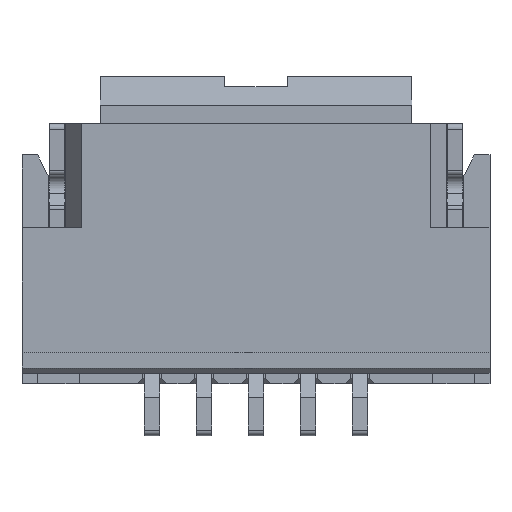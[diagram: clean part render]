
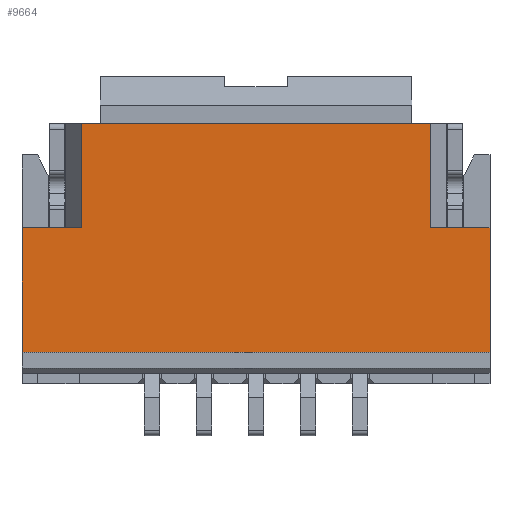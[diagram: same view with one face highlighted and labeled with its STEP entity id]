
A CAD part, front view. The second image highlights one B-rep face of the part: STEP entity #9664.
In plain terms, the highlighted planar face has unit normal (0, -1, 0).
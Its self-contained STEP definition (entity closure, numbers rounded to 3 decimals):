
#1=DIRECTION('',(0.,0.,1.));
#2=VECTOR('',#1,1.);
#3=CARTESIAN_POINT('',(1.18,0.,0.25));
#4=LINE('',#3,#2);
#5=DIRECTION('',(-1.,0.,0.));
#6=VECTOR('',#5,0.57);
#7=CARTESIAN_POINT('',(1.75,0.,0.25));
#8=LINE('',#7,#6);
#9=DIRECTION('',(0.,0.,1.));
#10=VECTOR('',#9,1.2);
#11=CARTESIAN_POINT('',(1.75,0.,-0.95));
#12=LINE('',#11,#10);
#13=DIRECTION('',(0.,0.,1.));
#14=VECTOR('',#13,1.2);
#15=CARTESIAN_POINT('',(-2.75,0.,-0.95));
#16=LINE('',#15,#14);
#17=DIRECTION('',(1.,0.,0.));
#18=VECTOR('',#17,0.57);
#19=CARTESIAN_POINT('',(-2.75,0.,0.25));
#20=LINE('',#19,#18);
#21=DIRECTION('',(0.,0.,1.));
#22=VECTOR('',#21,1.);
#23=CARTESIAN_POINT('',(-2.18,0.,0.25));
#24=LINE('',#23,#22);
#53=DIRECTION('',(-1.,0.,0.));
#54=VECTOR('',#53,3.36);
#55=CARTESIAN_POINT('',(1.18,0.,1.25));
#56=LINE('',#55,#54);
#783=DIRECTION('',(1.,0.,0.));
#784=VECTOR('',#783,4.5);
#785=CARTESIAN_POINT('',(-2.75,0.,-0.95));
#786=LINE('',#785,#784);
#7351=CARTESIAN_POINT('',(-2.75,0.,-0.95));
#7352=CARTESIAN_POINT('',(-2.75,0.,0.25));
#7353=VERTEX_POINT('',#7351);
#7354=VERTEX_POINT('',#7352);
#7355=CARTESIAN_POINT('',(-2.18,0.,0.25));
#7356=VERTEX_POINT('',#7355);
#7357=CARTESIAN_POINT('',(-2.18,0.,1.25));
#7358=VERTEX_POINT('',#7357);
#8485=CARTESIAN_POINT('',(1.75,0.,-0.95));
#8486=CARTESIAN_POINT('',(1.75,0.,0.25));
#8487=VERTEX_POINT('',#8485);
#8488=VERTEX_POINT('',#8486);
#8489=CARTESIAN_POINT('',(1.18,0.,0.25));
#8490=VERTEX_POINT('',#8489);
#8491=CARTESIAN_POINT('',(1.18,0.,1.25));
#8492=VERTEX_POINT('',#8491);
#9641=CARTESIAN_POINT('',(0.,0.,0.15));
#9642=DIRECTION('',(0.,1.,0.));
#9643=DIRECTION('',(1.,0.,0.));
#9644=AXIS2_PLACEMENT_3D('',#9641,#9642,#9643);
#9645=PLANE('',#9644);
#9647=ORIENTED_EDGE('',*,*,#9646,.F.);
#9649=ORIENTED_EDGE('',*,*,#9648,.F.);
#9651=ORIENTED_EDGE('',*,*,#9650,.F.);
#9653=ORIENTED_EDGE('',*,*,#9652,.F.);
#9655=ORIENTED_EDGE('',*,*,#9654,.F.);
#9657=ORIENTED_EDGE('',*,*,#9656,.T.);
#9659=ORIENTED_EDGE('',*,*,#9658,.T.);
#9661=ORIENTED_EDGE('',*,*,#9660,.T.);
#9662=EDGE_LOOP('',(#9647,#9649,#9651,#9653,#9655,#9657,#9659,#9661));
#9663=FACE_OUTER_BOUND('',#9662,.F.);
#9646=EDGE_CURVE('',#8492,#7358,#56,.T.);
#9648=EDGE_CURVE('',#8490,#8492,#4,.T.);
#9650=EDGE_CURVE('',#8488,#8490,#8,.T.);
#9652=EDGE_CURVE('',#8487,#8488,#12,.T.);
#9654=EDGE_CURVE('',#7353,#8487,#786,.T.);
#9656=EDGE_CURVE('',#7353,#7354,#16,.T.);
#9658=EDGE_CURVE('',#7354,#7356,#20,.T.);
#9660=EDGE_CURVE('',#7356,#7358,#24,.T.);
#9664=ADVANCED_FACE('',(#9663),#9645,.F.);
